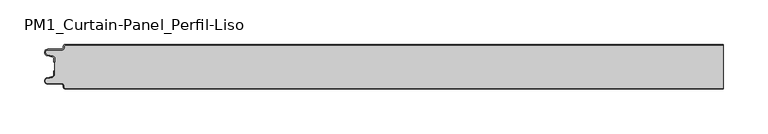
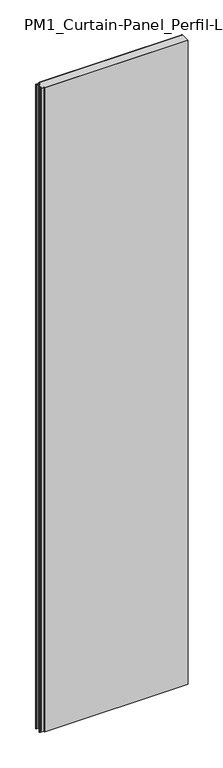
"""IFC4 building model written with IfcOpenShell, lengths in millimetres: plate geometry, PM1_Curtain-Panel_Perfil-Liso : ACH_PM1_Panel-Acústico-Sectorización_50M."""

from ifc_helpers import new_model, si_unit, point, frame_2d, origin, origin_with_axes, place, context, project, spatial, polyline, circle_curve, trimmed, segment, composite_curve, outline, extrude, source, transform, mapped, element, save


def pm1_curtain_panel_perfil_liso_af272a4a(model_context):
    return source(origin(), model_context, "Body", "SweptSolid", [
        extrude(outline(composite_curve([segment(trimmed(circle_curve(frame_2d((-362.4119739, -2.0)), 1.2), [point((-362.4119739, -0.8))], [point((-363.6119739, -2.0))], True, "CARTESIAN"), True, "CONTINUOUS"), segment(polyline([(-363.6119739, -2.0), (-363.6119739, -3.4)]), True, "CONTINUOUS"), segment(trimmed(circle_curve(frame_2d((-366.4119739, -3.4)), 2.8), [point((-363.6119739, -3.4))], [point((-366.4119739, -6.2))], False, "CARTESIAN"), True, "CONTINUOUS"), segment(polyline([(-366.4119739, -6.2), (-381.9119739, -6.2)]), True, "CONTINUOUS"), segment(trimmed(circle_curve(frame_2d((-381.9119739, -9.0)), 2.8), [point((-381.9119739, -6.2))], [point((-382.541837, -11.7282362))], True, "CARTESIAN"), True, "CONTINUOUS"), segment(polyline([(-382.541837, -11.7282362), (-376.3821109, -13.150321)]), True, "CONTINUOUS"), segment(trimmed(circle_curve(frame_2d((-377.0119739, -15.878557)), 2.8), [point((-376.3821109, -13.150321))], [point((-374.2119739, -15.878557))], False, "CARTESIAN"), True, "CONTINUOUS"), segment(polyline([(-374.2119739, -15.878557), (-374.2119739, -20.0), (-375.0119739, -20.0), (-375.0119739, -15.878557)]), True, "CONTINUOUS"), segment(trimmed(circle_curve(frame_2d((-377.0119739, -15.878557)), 2.0), [point((-375.0119739, -15.878557))], [point((-376.5620718, -13.9298169))], True, "CARTESIAN"), True, "CONTINUOUS"), segment(polyline([(-376.5620718, -13.9298169), (-382.7217978, -12.507732)]), True, "CONTINUOUS"), segment(trimmed(circle_curve(frame_2d((-381.9119739, -9.0)), 3.6), [point((-382.7217978, -12.507732))], [point((-381.9119739, -5.4))], False, "CARTESIAN"), True, "CONTINUOUS"), segment(polyline([(-381.9119739, -5.4), (-366.4119739, -5.4)]), True, "CONTINUOUS"), segment(trimmed(circle_curve(frame_2d((-366.4119739, -3.4)), 2.0), [point((-366.4119739, -5.4))], [point((-364.4119739, -3.4))], True, "CARTESIAN"), True, "CONTINUOUS"), segment(polyline([(-364.4119739, -3.4), (-364.4119739, -2.0)]), True, "CONTINUOUS"), segment(trimmed(circle_curve(frame_2d((-362.4119739, -2.0)), 2.0), [point((-364.4119739, -2.0))], [point((-362.4119739, 0.0))], False, "CARTESIAN"), True, "CONTINUOUS"), segment(polyline([(-362.4119739, 0.0), (375.0119739, 0.0), (375.0119739, -0.8), (-362.4119739, -0.8)]), True, "CONTINUOUS")], self_intersect=False)), origin_with_axes(), (0.0, 0.0, 1.0), 3500.0),
        extrude(outline(composite_curve([segment(polyline([(-374.2119739, -34.1214426), (-374.2119739, -15.8785573)]), True, "CONTINUOUS"), segment(trimmed(circle_curve(frame_2d((-377.0119739, -15.8785573)), 2.8), [point((-374.2119739, -15.8785573))], [point((-376.3821109, -13.1503212))], True, "CARTESIAN"), True, "CONTINUOUS"), segment(polyline([(-376.3821109, -13.1503212), (-382.541837, -11.7282362)]), True, "CONTINUOUS"), segment(trimmed(circle_curve(frame_2d((-381.911974, -9.0)), 2.8), [point((-382.541837, -11.7282362))], [point((-381.911974, -6.2))], False, "CARTESIAN"), True, "CONTINUOUS"), segment(polyline([(-381.911974, -6.2), (-366.411974, -6.2)]), True, "CONTINUOUS"), segment(trimmed(circle_curve(frame_2d((-366.411974, -3.4)), 2.8), [point((-366.411974, -6.2))], [point((-363.611974, -3.4))], True, "CARTESIAN"), True, "CONTINUOUS"), segment(polyline([(-363.611974, -3.4), (-363.611974, -2.0)]), True, "CONTINUOUS"), segment(trimmed(circle_curve(frame_2d((-362.411974, -2.0)), 1.2), [point((-363.611974, -2.0))], [point((-362.411974, -0.8))], False, "CARTESIAN"), True, "CONTINUOUS"), segment(polyline([(-362.411974, -0.8), (375.0119739, -0.8), (375.0119739, -49.2), (-362.411974, -49.2)]), True, "CONTINUOUS"), segment(trimmed(circle_curve(frame_2d((-362.411974, -48.0)), 1.2), [point((-362.411974, -49.2))], [point((-363.611974, -48.0))], False, "CARTESIAN"), True, "CONTINUOUS"), segment(polyline([(-363.611974, -48.0), (-363.611974, -46.6)]), True, "CONTINUOUS"), segment(trimmed(circle_curve(frame_2d((-366.411974, -46.6)), 2.8), [point((-363.611974, -46.6))], [point((-366.411974, -43.8))], True, "CARTESIAN"), True, "CONTINUOUS"), segment(polyline([(-366.411974, -43.8), (-381.911974, -43.8)]), True, "CONTINUOUS"), segment(trimmed(circle_curve(frame_2d((-381.911974, -41.0)), 2.8), [point((-381.911974, -43.8))], [point((-382.541837, -38.2717638))], False, "CARTESIAN"), True, "CONTINUOUS"), segment(polyline([(-382.541837, -38.2717638), (-376.3821109, -36.8496788)]), True, "CONTINUOUS"), segment(trimmed(circle_curve(frame_2d((-377.0119739, -34.1214426)), 2.8), [point((-376.3821109, -36.8496788))], [point((-374.2119739, -34.1214426))], True, "CARTESIAN"), True, "CONTINUOUS")], self_intersect=False)), origin_with_axes(), (0.0, 0.0, 1.0), 3500.0),
        extrude(outline(composite_curve([segment(trimmed(circle_curve(frame_2d((-362.4119739, -48.0)), 2.0), [point((-362.4119739, -50.0))], [point((-364.4119739, -48.0))], False, "CARTESIAN"), True, "CONTINUOUS"), segment(polyline([(-364.4119739, -48.0), (-364.4119739, -46.6)]), True, "CONTINUOUS"), segment(trimmed(circle_curve(frame_2d((-366.4119739, -46.6)), 2.0), [point((-364.4119739, -46.6))], [point((-366.4119739, -44.6))], True, "CARTESIAN"), True, "CONTINUOUS"), segment(polyline([(-366.4119739, -44.6), (-381.9119739, -44.6)]), True, "CONTINUOUS"), segment(trimmed(circle_curve(frame_2d((-381.9119739, -41.0)), 3.6), [point((-381.9119739, -44.6))], [point((-382.7217979, -37.4922678))], False, "CARTESIAN"), True, "CONTINUOUS"), segment(polyline([(-382.7217979, -37.4922678), (-376.5620718, -36.070183)]), True, "CONTINUOUS"), segment(trimmed(circle_curve(frame_2d((-377.0119739, -34.121443)), 2.0), [point((-376.5620718, -36.070183))], [point((-375.0119739, -34.121443))], True, "CARTESIAN"), True, "CONTINUOUS"), segment(polyline([(-375.0119739, -34.121443), (-375.0119739, -30.0), (-374.2119739, -30.0), (-374.2119739, -34.121443)]), True, "CONTINUOUS"), segment(trimmed(circle_curve(frame_2d((-377.0119739, -34.121443)), 2.8), [point((-374.2119739, -34.121443))], [point((-376.3821109, -36.8496792))], False, "CARTESIAN"), True, "CONTINUOUS"), segment(polyline([(-376.3821109, -36.8496792), (-382.5418369, -38.271764)]), True, "CONTINUOUS"), segment(trimmed(circle_curve(frame_2d((-381.9119739, -41.0)), 2.8), [point((-382.5418369, -38.271764))], [point((-381.9119739, -43.8))], True, "CARTESIAN"), True, "CONTINUOUS"), segment(polyline([(-381.9119739, -43.8), (-366.4119739, -43.8)]), True, "CONTINUOUS"), segment(trimmed(circle_curve(frame_2d((-366.4119739, -46.6)), 2.8), [point((-366.4119739, -43.8))], [point((-363.6119739, -46.6))], False, "CARTESIAN"), True, "CONTINUOUS"), segment(polyline([(-363.6119739, -46.6), (-363.6119739, -48.0)]), True, "CONTINUOUS"), segment(trimmed(circle_curve(frame_2d((-362.4119739, -48.0)), 1.2), [point((-363.6119739, -48.0))], [point((-362.4119739, -49.2))], True, "CARTESIAN"), True, "CONTINUOUS"), segment(polyline([(-362.4119739, -49.2), (375.0119739, -49.2), (375.0119739, -50.0), (-362.4119739, -50.0)]), True, "CONTINUOUS")], self_intersect=False)), origin_with_axes(), (0.0, 0.0, 1.0), 3500.0),
    ])


if __name__ == "__main__":
    model = new_model("IFC4")
    model_context = context("Model", 3, world=origin())
    ifc_project = project(units=[si_unit("LENGTHUNIT", "METRE", prefix="MILLI")], contexts=[model_context])
    site = spatial("IfcSite", under=ifc_project)
    building = spatial("IfcBuilding", under=site)
    placement = place(None, origin())
    pm1_curtain_panel_perfil_liso_shape = pm1_curtain_panel_perfil_liso_af272a4a(model_context)
    element("IfcPlate", 1, ObjectType="PM1_Curtain-Panel_Perfil-Liso : ACH_PM1_Panel-Acústico-Sectorización_50M", at=placement, inside=building, context=model_context, shape_type="MappedRepresentation", body=[
        mapped(pm1_curtain_panel_perfil_liso_shape, transform((0.0, 0.0, 0.0), x_axis=(1.0, 0.0, 0.0), y_axis=(0.0, 1.0, 0.0), z_axis=(0.0, 0.0, 1.0))),
    ])
    save(model, "model.ifc")
